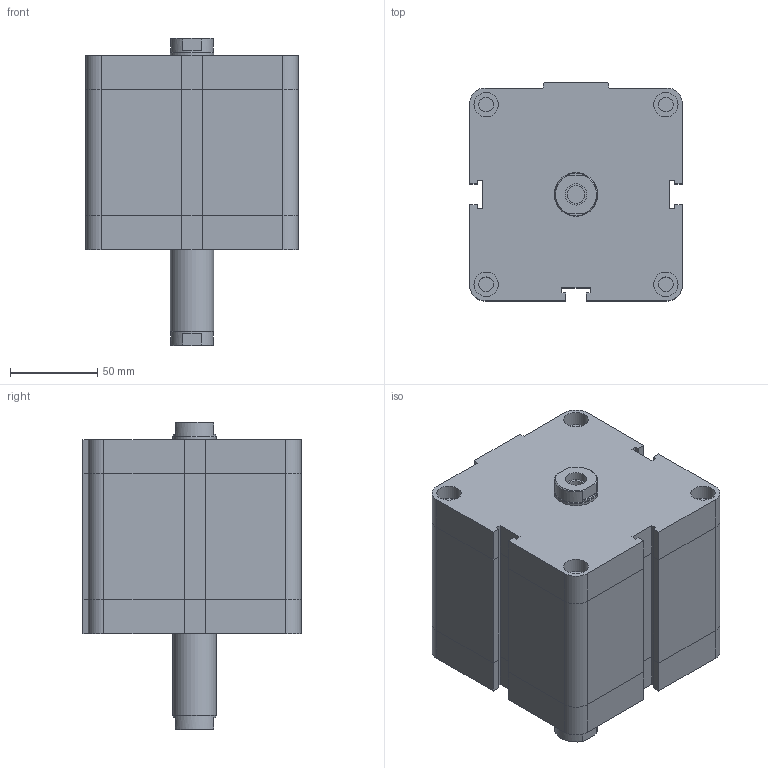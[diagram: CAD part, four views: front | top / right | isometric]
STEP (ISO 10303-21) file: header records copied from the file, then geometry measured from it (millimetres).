
FILE_DESCRIPTION((''),'2;1');
FILE_NAME('I:\Area Tecnica\Disegni\VARIE-3D\Componenti\EUROPE\15##_###_####_03_#\1581_100_0045_03_1.iam.stp','2009-04-20T14:38:40',(''),(''),'Autodesk Inventor 2009','Autodesk Inventor 2009','');
FILE_SCHEMA(('AUTOMOTIVE_DESIGN { 1 0 10303 214 1 1 1 1 }'));
Length unit declared in the file: millimetre
Products named in the file (3): 1581_100_0045_03_1; 1581_100_0045_03_1_C; 1561_100_0045_03_1_S
Assembly tree (2 placements, depth 2):
  1581_100_0045_03_1
    1581_100_0045_03_1_C
    1561_100_0045_03_1_S
Bounding box: 122 x 125 x 176.5 mm (x, y, z)
Volume: 1638503.5 mm3; surface area: 121057 mm2
Topology: 2 solids, 2 shells, 174 faces, 379 edges, 231 vertices
Faces by surface type: plane 114, bspline 29, cylinder 25, cone 6
Full cylindrical faces by diameter (mm): 8.376 x4, 10.106 x1, 12.3 x1, 14 x4, 24.5 x2, 25 x1
Entity records: 4758 total; most frequent: CARTESIAN_POINT 1020, DIRECTION 708, ORIENTED_EDGE 676, EDGE_CURVE 338, VECTOR 252, LINE 252, AXIS2_PLACEMENT_3D 228, EDGE_LOOP 226
